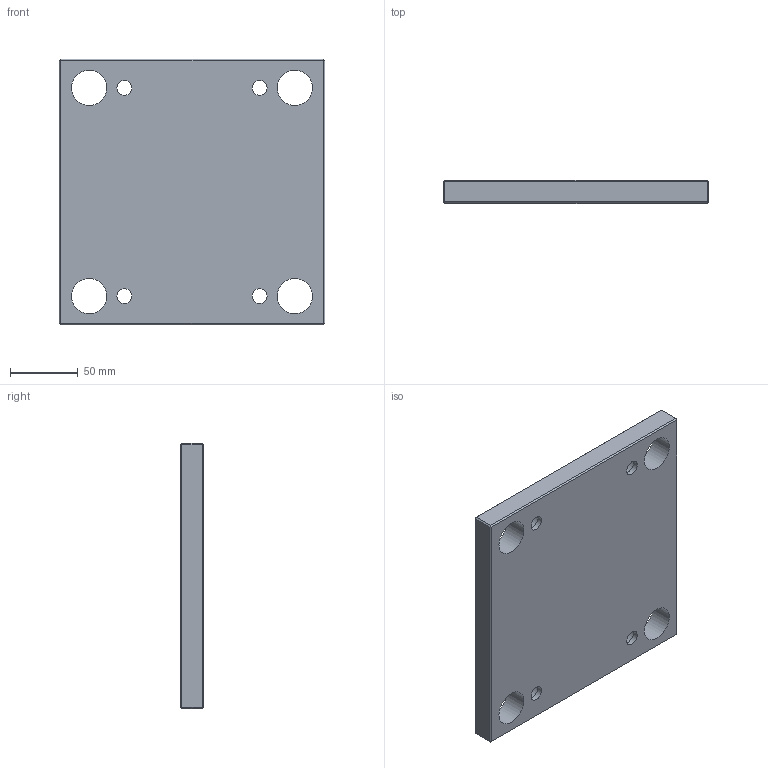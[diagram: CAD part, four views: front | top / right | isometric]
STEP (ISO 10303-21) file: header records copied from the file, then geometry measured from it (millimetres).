
FILE_DESCRIPTION(/* description */ ('STEP AP214'),/* implementation_level */ '2;1');
FILE_NAME(/* name */ 'KM0161961960171730',/* time_stamp */ '2026-06-18T12:51:47+02:00',/* author */ ('License CC BY-ND 4.0'),/* organization */ ('CADENAS'),/* preprocessor_version */ 'ST-DEVELOPER v20',/* originating_system */ 'PARTsolutions',/* authorisation */ ' ');
FILE_SCHEMA (('AUTOMOTIVE_DESIGN {1 0 10303 214 3 1 1}'));
Length unit declared in the file: millimetre
Products named in the file (1): KM0161961960171730
Bounding box: 196 x 17 x 196 mm (x, y, z)
Volume: 601403.9 mm3; surface area: 93240.3 mm2
Topology: 1 solids, 1 shells, 34 faces, 84 edges, 56 vertices
Faces by surface type: plane 22, cylinder 12
Full cylindrical faces by diameter (mm): 11 x4, 18 x4, 26 x4
Entity records: 1014 total; most frequent: DIRECTION 166, CARTESIAN_POINT 163, ORIENTED_EDGE 144, EDGE_CURVE 72, EDGE_LOOP 66, FACE_BOUND 66, AXIS2_PLACEMENT_3D 59, VERTEX_POINT 56
